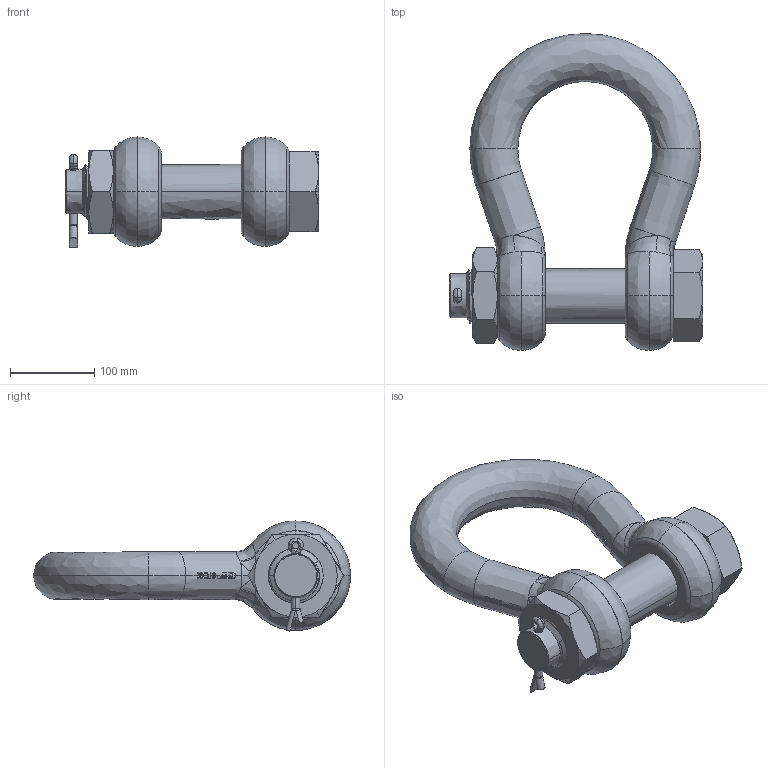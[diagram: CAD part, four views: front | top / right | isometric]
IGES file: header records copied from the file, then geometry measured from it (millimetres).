
Start section: START RECORD GO HERE.
Global section: file name: 42,5.igs; native system: IBM CATIA IGES - CATIA Vers                 ; preprocessor: Solidworks 2009            ; author: v.b.; organization: P4; date: 20090807.082317; units: millimetre
Bounding box: 301 x 376.5 x 130.74 mm (x, y, z)
Surface area: 313877.4 mm2 (no closed solid volume)
Topology: 0 solids, 0 shells, 828 faces, 5818 edges, 5810 vertices
Faces by surface type: plane 323, bspline 323, revolution 182
